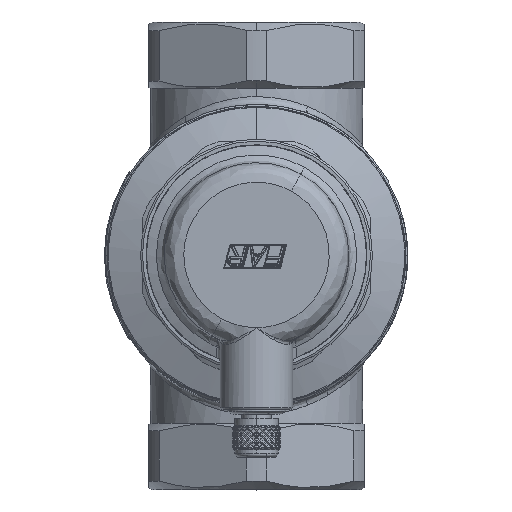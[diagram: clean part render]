
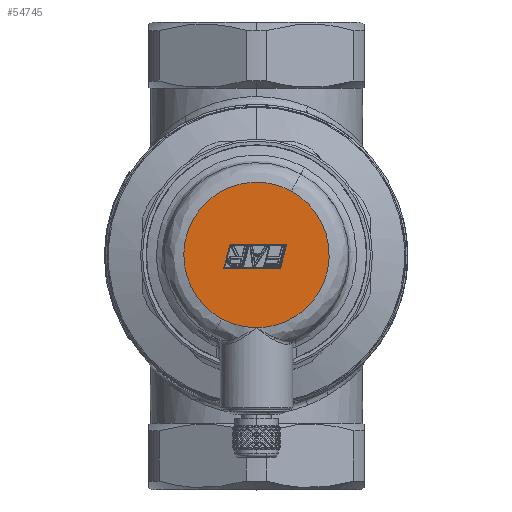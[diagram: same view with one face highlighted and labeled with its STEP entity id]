
A CAD part, top view. The second image highlights one B-rep face of the part: STEP entity #54745.
In plain terms, the highlighted planar face has unit normal (0, 0, 1) as drawn and (0, -1, 0) by its records, which use the part's own axes.
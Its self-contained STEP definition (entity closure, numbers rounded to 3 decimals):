
#3457 = VERTEX_POINT ( 'NONE', #65727 ) ;
#6051 = CARTESIAN_POINT ( 'NONE',  ( 0., -20., -2.64 ) ) ;
#6205 = ORIENTED_EDGE ( 'NONE', *, *, #12318, .F. ) ;
#7076 = AXIS2_PLACEMENT_3D ( 'NONE', #106165, #8570, #43054 ) ;
#8570 = DIRECTION ( 'NONE',  ( 0., 1., 0. ) ) ;
#9166 = CARTESIAN_POINT ( 'NONE',  ( -29.916, -20., -4.737 ) ) ;
#9352 =( BOUNDED_CURVE ( )  B_SPLINE_CURVE ( 3, ( #112600, #114896, #103254, #58856 ),
 .UNSPECIFIED., .F., .T. ) 
 B_SPLINE_CURVE_WITH_KNOTS ( ( 4, 4 ),
 ( 0., 1. ),
 .UNSPECIFIED. ) 
 CURVE ( )  GEOMETRIC_REPRESENTATION_ITEM ( )  RATIONAL_B_SPLINE_CURVE ( ( 1., 0.979, 0.979, 1. ) ) 
 REPRESENTATION_ITEM ( '' )  );
#9522 = CARTESIAN_POINT ( 'NONE',  ( -7.708, -20., -2.64 ) ) ;
#10746 = CARTESIAN_POINT ( 'NONE',  ( -8.869, -20., -16.235 ) ) ;
#10983 = EDGE_CURVE ( 'NONE', #94624, #82160, #57732, .T. ) ;
#12318 = EDGE_CURVE ( 'NONE', #63523, #3457, #78445, .T. ) ;
#13203 = VERTEX_POINT ( 'NONE', #32637 ) ;
#13609 = EDGE_CURVE ( 'NONE', #94137, #16087, #53460, .T. ) ;
#13912 = CARTESIAN_POINT ( 'NONE',  ( 6.741, -20., -2.64 ) ) ;
#16087 = VERTEX_POINT ( 'NONE', #9522 ) ;
#16136 = CARTESIAN_POINT ( 'NONE',  ( -6.097, -20., 3.372 ) ) ;
#18461 = VECTOR ( 'NONE', #87395, 1000. ) ;
#18867 = ORIENTED_EDGE ( 'NONE', *, *, #38260, .F. ) ;
#20113 = VECTOR ( 'NONE', #30846, 1000. ) ;
#24176 = LINE ( 'NONE', #6051, #110476 ) ;
#30846 = DIRECTION ( 'NONE',  ( 0.259, 0., 0.966 ) ) ;
#32637 = CARTESIAN_POINT ( 'NONE',  ( 0., -20., 18.5 ) ) ;
#32789 = LINE ( 'NONE', #86546, #82655 ) ;
#33625 = CARTESIAN_POINT ( 'NONE',  ( 8.869, -20., 16.235 ) ) ;
#38260 = EDGE_CURVE ( 'NONE', #3457, #13203, #98065, .T. ) ;
#39336 = ORIENTED_EDGE ( 'NONE', *, *, #95264, .F. ) ;
#43054 = DIRECTION ( 'NONE',  ( 0., 0., 1. ) ) ;
#50451 = ORIENTED_EDGE ( 'NONE', *, *, #13609, .F. ) ;
#50953 = EDGE_CURVE ( 'NONE', #16087, #94624, #24176, .T. ) ;
#53460 = LINE ( 'NONE', #16136, #18461 ) ;
#53525 = EDGE_LOOP ( 'NONE', ( #92230, #18867, #6205 ) ) ;
#54745 = ADVANCED_FACE ( 'NONE', ( #114370, #61178 ), #61736, .F. ) ;
#57732 = LINE ( 'NONE', #13912, #20113 ) ;
#58856 = CARTESIAN_POINT ( 'NONE',  ( 8.869, -20., 16.235 ) ) ;
#60275 = EDGE_CURVE ( 'NONE', #13203, #63523, #9352, .T. ) ;
#61178 = FACE_OUTER_BOUND ( 'NONE', #53525, .T. ) ;
#61736 = PLANE ( 'NONE',  #7076 ) ;
#62712 = ORIENTED_EDGE ( 'NONE', *, *, #50953, .F. ) ;
#63523 = VERTEX_POINT ( 'NONE', #111414 ) ;
#64965 = CARTESIAN_POINT ( 'NONE',  ( 8.353, -20., 3.378 ) ) ;
#65727 = CARTESIAN_POINT ( 'NONE',  ( -8.869, -20., -16.235 ) ) ;
#66236 = DIRECTION ( 'NONE',  ( 1., 0., 0. ) ) ;
#71682 = CARTESIAN_POINT ( 'NONE',  ( -8.869, -20., -16.235 ) ) ;
#78445 =( BOUNDED_CURVE ( )  B_SPLINE_CURVE ( 3, ( #33625, #90776, #108346, #10746 ),
 .UNSPECIFIED., .F., .F. ) 
 B_SPLINE_CURVE_WITH_KNOTS ( ( 4, 4 ),
 ( 0., 1. ),
 .UNSPECIFIED. ) 
 CURVE ( )  GEOMETRIC_REPRESENTATION_ITEM ( )  RATIONAL_B_SPLINE_CURVE ( ( 1., 0.333, 0.333, 1. ) ) 
 REPRESENTATION_ITEM ( '' )  );
#82160 = VERTEX_POINT ( 'NONE', #64965 ) ;
#82655 = VECTOR ( 'NONE', #113427, 1000. ) ;
#86546 = CARTESIAN_POINT ( 'NONE',  ( 8.353, -20., 3.378 ) ) ;
#86944 = CARTESIAN_POINT ( 'NONE',  ( -23.983, -20., 18.5 ) ) ;
#87395 = DIRECTION ( 'NONE',  ( -0.259, 0., -0.966 ) ) ;
#90200 = CARTESIAN_POINT ( 'NONE',  ( -6.097, -20., 3.372 ) ) ;
#90776 = CARTESIAN_POINT ( 'NONE',  ( 41.34, -20., -1.503 ) ) ;
#91495 = CARTESIAN_POINT ( 'NONE',  ( 6.741, -20., -2.64 ) ) ;
#92230 = ORIENTED_EDGE ( 'NONE', *, *, #60275, .F. ) ;
#94137 = VERTEX_POINT ( 'NONE', #90200 ) ;
#94624 = VERTEX_POINT ( 'NONE', #91495 ) ;
#95264 = EDGE_CURVE ( 'NONE', #82160, #94137, #32789, .T. ) ;
#96825 = CARTESIAN_POINT ( 'NONE',  ( 0., -20., 18.5 ) ) ;
#98065 =( BOUNDED_CURVE ( )  B_SPLINE_CURVE ( 3, ( #71682, #9166, #86944, #96825 ),
 .UNSPECIFIED., .F., .F. ) 
 B_SPLINE_CURVE_WITH_KNOTS ( ( 4, 4 ),
 ( 0., 1. ),
 .UNSPECIFIED. ) 
 CURVE ( )  GEOMETRIC_REPRESENTATION_ITEM ( )  RATIONAL_B_SPLINE_CURVE ( ( 1., 0.498, 0.498, 1. ) ) 
 REPRESENTATION_ITEM ( '' )  );
#98941 = EDGE_LOOP ( 'NONE', ( #50451, #39336, #113517, #62712 ) ) ;
#103254 = CARTESIAN_POINT ( 'NONE',  ( 6.135, -20., 17.729 ) ) ;
#106165 = CARTESIAN_POINT ( 'NONE',  ( 0., -20., 0. ) ) ;
#108346 = CARTESIAN_POINT ( 'NONE',  ( 23.601, -20., -33.974 ) ) ;
#110476 = VECTOR ( 'NONE', #66236, 1000. ) ;
#111414 = CARTESIAN_POINT ( 'NONE',  ( 8.869, -20., 16.235 ) ) ;
#112600 = CARTESIAN_POINT ( 'NONE',  ( 0., -20., 18.5 ) ) ;
#113427 = DIRECTION ( 'NONE',  ( -1., 0., 0. ) ) ;
#113517 = ORIENTED_EDGE ( 'NONE', *, *, #10983, .F. ) ;
#114370 = FACE_BOUND ( 'NONE', #98941, .T. ) ;
#114896 = CARTESIAN_POINT ( 'NONE',  ( 3.116, -20., 18.5 ) ) ;
